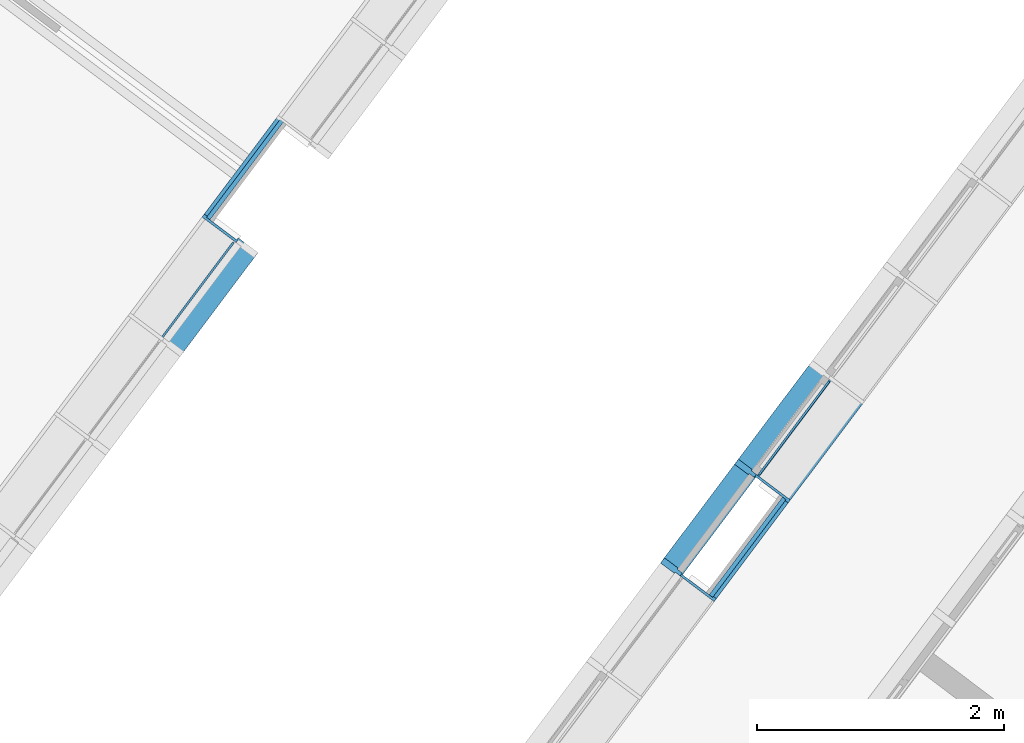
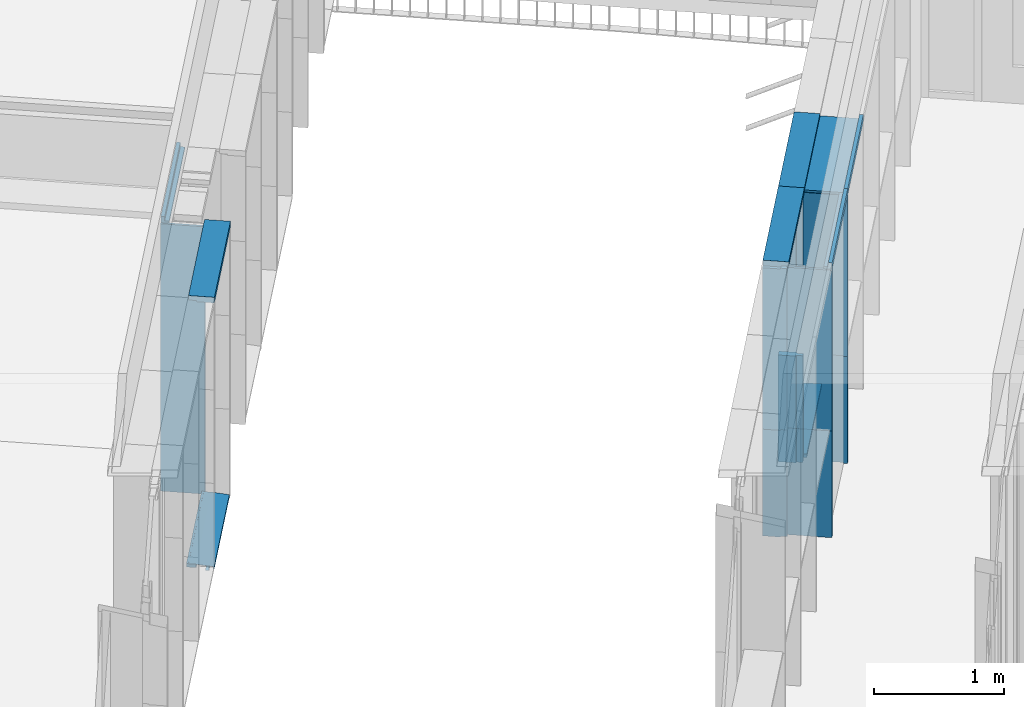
# One storey, part 23 of 243: 17 members, 4 elements without a shape of their own.
"""IFC2X3 building model written with IfcOpenShell, lengths in metres."""

from ifc_helpers import new_model, entity, si_unit, converted_unit, derived_unit, direction, frame, frame_2d, origin, place, context, subcontext, project, spatial, polyline, circle_curve, parameter, trimmed, segment, composite_curve, outline, extrude, source, transform, mapped, material, type_object, type_shapes, element, aggregate, save


model = new_model("IFC2X3")

# Units and contexts
model_context = context("Model", 3, precision=1e-05, world=origin(), true_north=direction((6.123031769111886e-17, 1.0)))
body_context = subcontext(model_context, "Body", "Model", "MODEL_VIEW")
ifc_project = project(units=[si_unit("LENGTHUNIT", "METRE"), si_unit("AREAUNIT", "SQUARE_METRE"), si_unit("VOLUMEUNIT", "CUBIC_METRE"), converted_unit("PLANEANGLEUNIT", "DEGREE", entity("IfcRatioMeasure", 0.017453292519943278), si_unit("PLANEANGLEUNIT", "RADIAN"), dimensions=[0, 0, 0, 0, 0, 0, 0]), si_unit("MASSUNIT", "GRAM", prefix="KILO"), derived_unit("MASSDENSITYUNIT", [(si_unit("MASSUNIT", "GRAM", prefix="KILO"), 1), (si_unit("LENGTHUNIT", "METRE"), -3)]), derived_unit("IONCONCENTRATIONUNIT", [(si_unit("MASSUNIT", "GRAM", prefix="KILO"), 1), (si_unit("LENGTHUNIT", "METRE"), -3)]), derived_unit("MOMENTOFINERTIAUNIT", [(si_unit("LENGTHUNIT", "METRE"), 4)]), si_unit("TIMEUNIT", "SECOND"), si_unit("FREQUENCYUNIT", "HERTZ"), si_unit("THERMODYNAMICTEMPERATUREUNIT", "DEGREE_CELSIUS"), derived_unit("THERMALTRANSMITTANCEUNIT", [(si_unit("MASSUNIT", "GRAM", prefix="KILO"), 1), (si_unit("THERMODYNAMICTEMPERATUREUNIT", "KELVIN"), -1), (si_unit("TIMEUNIT", "SECOND"), -3)]), derived_unit("THERMALCONDUCTANCEUNIT", [(si_unit("MASSUNIT", "GRAM", prefix="KILO"), 1), (si_unit("THERMODYNAMICTEMPERATUREUNIT", "KELVIN"), -1), (si_unit("TIMEUNIT", "SECOND"), -3), (si_unit("LENGTHUNIT", "METRE"), 1)]), derived_unit("VOLUMETRICFLOWRATEUNIT", [(si_unit("LENGTHUNIT", "METRE"), 3), (si_unit("TIMEUNIT", "SECOND"), -1)]), derived_unit("MASSFLOWRATEUNIT", [(si_unit("MASSUNIT", "GRAM", prefix="KILO"), 1), (si_unit("TIMEUNIT", "SECOND"), -1)]), derived_unit("ROTATIONALFREQUENCYUNIT", [(si_unit("TIMEUNIT", "SECOND"), -1)]), si_unit("ELECTRICCURRENTUNIT", "AMPERE"), si_unit("ELECTRICVOLTAGEUNIT", "VOLT"), si_unit("POWERUNIT", "WATT"), si_unit("FORCEUNIT", "NEWTON", prefix="KILO"), si_unit("ILLUMINANCEUNIT", "LUX"), si_unit("LUMINOUSFLUXUNIT", "LUMEN"), si_unit("LUMINOUSINTENSITYUNIT", "CANDELA"), derived_unit("USERDEFINED", [(si_unit("MASSUNIT", "GRAM", prefix="KILO"), -1), (si_unit("LENGTHUNIT", "METRE"), -2), (si_unit("TIMEUNIT", "SECOND"), 3), (si_unit("LUMINOUSFLUXUNIT", "LUMEN"), 1)]), derived_unit("USERDEFINED", [(si_unit("MASSUNIT", "GRAM", prefix="KILO"), 1), (si_unit("TIMEUNIT", "SECOND"), -3), (si_unit("LENGTHUNIT", "METRE"), 3), (si_unit("ELECTRICCURRENTUNIT", "AMPERE"), -2)]), derived_unit("SOUNDPOWERUNIT", [(si_unit("MASSUNIT", "GRAM", prefix="KILO"), 1), (si_unit("TIMEUNIT", "SECOND"), -3), (si_unit("LENGTHUNIT", "METRE"), 2)]), derived_unit("SOUNDPRESSUREUNIT", [(si_unit("MASSUNIT", "GRAM", prefix="KILO"), 1), (si_unit("LENGTHUNIT", "METRE"), -1), (si_unit("TIMEUNIT", "SECOND"), -2)]), derived_unit("LINEARVELOCITYUNIT", [(si_unit("LENGTHUNIT", "METRE"), 1), (si_unit("TIMEUNIT", "SECOND"), -1)]), si_unit("PRESSUREUNIT", "PASCAL"), derived_unit("USERDEFINED", [(si_unit("MASSUNIT", "GRAM", prefix="KILO"), 1), (si_unit("LENGTHUNIT", "METRE"), -2), (si_unit("TIMEUNIT", "SECOND"), -2)]), derived_unit("LINEARFORCEUNIT", [(si_unit("MASSUNIT", "GRAM", prefix="KILO"), 1), (si_unit("TIMEUNIT", "SECOND"), -2)]), derived_unit("PLANARFORCEUNIT", [(si_unit("MASSUNIT", "GRAM", prefix="KILO"), 1), (si_unit("LENGTHUNIT", "METRE"), -1), (si_unit("TIMEUNIT", "SECOND"), -2)]), derived_unit("SPECIFICHEATCAPACITYUNIT", [(si_unit("THERMODYNAMICTEMPERATUREUNIT", "KELVIN"), -1), (si_unit("LENGTHUNIT", "METRE"), 2), (si_unit("TIMEUNIT", "SECOND"), -2)]), derived_unit("HEATINGVALUEUNIT", [(si_unit("LENGTHUNIT", "METRE"), 2), (si_unit("TIMEUNIT", "SECOND"), -2)]), derived_unit("VAPORPERMEABILITYUNIT", [(si_unit("LENGTHUNIT", "METRE"), -1), (si_unit("TIMEUNIT", "SECOND"), 1)]), derived_unit("DYNAMICVISCOSITYUNIT", [(si_unit("MASSUNIT", "GRAM", prefix="KILO"), 1), (si_unit("TIMEUNIT", "SECOND"), -1), (si_unit("LENGTHUNIT", "METRE"), -1)]), derived_unit("THERMALEXPANSIONCOEFFICIENTUNIT", [(si_unit("THERMODYNAMICTEMPERATUREUNIT", "KELVIN"), -1)]), derived_unit("MODULUSOFELASTICITYUNIT", [(si_unit("MASSUNIT", "GRAM", prefix="KILO"), 1), (si_unit("LENGTHUNIT", "METRE"), -1), (si_unit("TIMEUNIT", "SECOND"), -2)]), derived_unit("ISOTHERMALMOISTURECAPACITYUNIT", [(si_unit("LENGTHUNIT", "METRE"), 3), (si_unit("MASSUNIT", "GRAM", prefix="KILO"), -1)]), derived_unit("MOISTUREDIFFUSIVITYUNIT", [(si_unit("TIMEUNIT", "SECOND"), -1), (si_unit("LENGTHUNIT", "METRE"), 2)])], contexts=[model_context])

# Site, building, storey
site_placement = place(None, frame((0.0, 0.0, 235.0), z_axis=(0.0, 0.0, 1.0), x_axis=(-0.7996477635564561, 0.6004693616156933, 0.0)))
site = spatial("IfcSite", under=ifc_project, at=site_placement, Name="Default", CompositionType="ELEMENT")
building_placement = place(site_placement, origin())
building = spatial("IfcBuilding", under=site, at=building_placement, CompositionType="ELEMENT")
storey_placement = place(building_placement, origin())
storey = spatial("IfcBuildingStorey", under=building, at=storey_placement, Name="P0- Escola", CompositionType="ELEMENT", Elevation=0.0)

# Curtain wall, members
curtain_wall_type_1 = type_object("IfcCurtainWallType", Name="Muro cortina:MC- INT- k7- Aules infantil", PredefinedType="NOTDEFINED")
curtain_wall_1_placement = place(storey_placement, origin())
curtain_wall_1 = element("IfcCurtainWall", 1, at=curtain_wall_1_placement, inside=storey, type_object=curtain_wall_type_1, Name="Muro cortina:MC- INT- k7- Aules infantil", ObjectType="Muro cortina:MC- INT- k7- Aules infantil")
ifc_material_1 = material(Name="_Fusta massisa- T1")
member_type_1 = type_object("IfcMemberType", Name="Montante rectangular:MC- Fusta- 35x3 cm- Pati aules- Remat dreta", PredefinedType="MULLION", material=ifc_material_1)
shared_shape_1 = source(origin(), body_context, "Body", "SweptSolid", [
    extrude(outline(polyline([(-0.22, -0.01666666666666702), (0.12500000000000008, -0.01666666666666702), (0.12500000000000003, 0.013333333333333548), (0.09500000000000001, 0.013333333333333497), (0.09499999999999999, 0.003333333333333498), (-0.22, 0.003333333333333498), (-0.22, -0.01666666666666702)])), frame((0.0016666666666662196, 0.03000000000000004, -2.504999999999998), z_axis=(0.0, 0.0, 1.0), x_axis=(0.0, -1.0, 0.0)), (0.0, 0.0, 1.0), 2.5049999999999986),
])
type_shapes(member_type_1, [shared_shape_1])
member_1_placement = place(curtain_wall_1_placement, frame((41.34514768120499, -29.41519175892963, 0.0), z_axis=(0.0, 0.0, -1.0), x_axis=(0.0, -1.0, 0.0)))
member_1 = element("IfcMember", 2, at=member_1_placement, type_object=member_type_1, material=ifc_material_1, Name="Montante rectangular:MC- Fusta- 35x3 cm- Pati aules- Remat dreta", ObjectType="Montante rectangular:MC- Fusta- 35x3 cm- Pati aules- Remat dreta", context=body_context, shape_type="MappedRepresentation", body=[
    mapped(shared_shape_1, transform((0.0, 0.0, 0.0), scale=1.0)),
])
member_type_2 = type_object("IfcMemberType", Name="Montante rectangular:MC- Fusta- 35x3 cm- Pati aules- Remat superior pilar", PredefinedType="MULLION", material=ifc_material_1)
shared_shape_2 = source(origin(), body_context, "Body", "SweptSolid", [
    extrude(outline(polyline([(-0.03333333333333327, -0.02666666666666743), (0.031666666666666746, -0.02666666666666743), (0.031666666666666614, 0.03333333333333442), (0.0016666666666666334, 0.033333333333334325), (0.0016666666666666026, -0.006666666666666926), (-0.03333333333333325, -0.00666666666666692), (-0.03333333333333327, -0.02666666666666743)])), frame((-0.03333333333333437, -0.06333333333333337, -1.0), z_axis=(0.0, 0.0, 1.0), x_axis=(0.0, -1.0, 0.0)), (0.0, 0.0, 1.0), 0.9999999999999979),
])
type_shapes(member_type_2, [shared_shape_2])
member_2_placement = place(curtain_wall_1_placement, frame((41.345147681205, -30.415191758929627, 2.565), z_axis=(0.0, -1.0, 0.0), x_axis=(0.0, 0.0, 1.0)))
member_2 = element("IfcMember", 3, at=member_2_placement, type_object=member_type_2, material=ifc_material_1, Name="Montante rectangular:MC- Fusta- 35x3 cm- Pati aules- Remat superior pilar", ObjectType="Montante rectangular:MC- Fusta- 35x3 cm- Pati aules- Remat superior pilar", context=body_context, shape_type="MappedRepresentation", body=[
    mapped(shared_shape_2, transform((0.0, 0.0, 0.0), scale=1.0)),
])
aggregate(curtain_wall_1, [member_1, member_2])

curtain_wall_type_2 = type_object("IfcCurtainWallType", Name="Muro cortina:MC- INT- k2", PredefinedType="NOTDEFINED")
curtain_wall_2_placement = place(storey_placement, origin())
curtain_wall_2 = element("IfcCurtainWall", 4, at=curtain_wall_2_placement, inside=storey, type_object=curtain_wall_type_2, Name="Muro cortina:MC- INT- k2", ObjectType="Muro cortina:MC- INT- k2")
member_type_3 = type_object("IfcMemberType", Name="Montante rectangular:MC- Fusta- 35x3 cm- Pati aules- Remat superior", PredefinedType="MULLION", material=ifc_material_1)
shared_shape_3 = source(origin(), body_context, "Body", "SweptSolid", [
    extrude(outline(polyline([(-0.12166666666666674, -0.02666666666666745), (0.21333333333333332, -0.02666666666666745), (0.2133333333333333, -0.006666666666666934), (-0.09166666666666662, -0.006666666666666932), (-0.09166666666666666, 0.03333333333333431), (-0.12166666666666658, 0.03333333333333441), (-0.12166666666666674, -0.02666666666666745)])), frame((-0.033333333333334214, -0.026666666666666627, -1.0), z_axis=(0.0, 0.0, 1.0), x_axis=(0.0, -1.0, 0.0)), (0.0, 0.0, 1.0), 0.9999999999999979),
])
type_shapes(member_type_3, [shared_shape_3])
member_3_placement = place(curtain_wall_2_placement, frame((36.345147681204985, -31.415191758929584, 2.565), z_axis=(0.0, -1.0, 0.0), x_axis=(0.0, 0.0, 1.0)))
member_3 = element("IfcMember", 5, at=member_3_placement, type_object=member_type_3, material=ifc_material_1, Name="Montante rectangular:MC- Fusta- 35x3 cm- Pati aules- Remat superior", ObjectType="Montante rectangular:MC- Fusta- 35x3 cm- Pati aules- Remat superior", context=body_context, shape_type="MappedRepresentation", body=[
    mapped(shared_shape_3, transform((0.0, 0.0, 0.0), scale=1.0)),
])
member_type_4 = type_object("IfcMemberType", Name="Montante rectangular:MC- Fusta- 35x3 cm- Pati aules- Remat dreta", PredefinedType="MULLION", material=ifc_material_1)
shared_shape_4 = source(origin(), body_context, "Body", "SweptSolid", [
    extrude(outline(polyline([(-0.12500000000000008, -0.01666666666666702), (0.22, -0.01666666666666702), (0.22000000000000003, 0.003333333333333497), (-0.09499999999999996, 0.003333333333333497), (-0.09499999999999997, 0.013333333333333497), (-0.12500000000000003, 0.013333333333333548), (-0.12500000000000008, -0.01666666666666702)])), frame((0.00166666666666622, -0.03000000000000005, -1.0), z_axis=(0.0, 0.0, 1.0), x_axis=(0.0, -1.0, 0.0)), (0.0, 0.0, 1.0), 1.0),
])
type_shapes(member_type_4, [shared_shape_4])
member_4_placement = place(curtain_wall_2_placement, frame((36.345147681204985, -29.415191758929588, 0.0), z_axis=(0.0, 0.0, -1.0), x_axis=(0.0, -1.0, 0.0)))
member_4 = element("IfcMember", 6, at=member_4_placement, type_object=member_type_4, material=ifc_material_1, Name="Montante rectangular:MC- Fusta- 35x3 cm- Pati aules- Remat dreta", ObjectType="Montante rectangular:MC- Fusta- 35x3 cm- Pati aules- Remat dreta", context=body_context, shape_type="MappedRepresentation", body=[
    mapped(shared_shape_4, transform((0.0, 0.0, 0.0), scale=1.0)),
])
member_type_5 = type_object("IfcMemberType", Name="Montante rectangular:MC- Fusta- 35x3 cm- Pati aules- Remat superior pilar", PredefinedType="MULLION", material=ifc_material_1)
shared_shape_5 = source(origin(), body_context, "Body", "SweptSolid", [
    extrude(outline(polyline([(-0.03166666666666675, -0.02666666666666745), (0.03333333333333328, -0.02666666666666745), (0.03333333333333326, -0.00666666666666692), (-0.0016666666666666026, -0.006666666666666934), (-0.0016666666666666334, 0.03333333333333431), (-0.03166666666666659, 0.03333333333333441), (-0.03166666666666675, -0.02666666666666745)])), frame((-0.03333333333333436, 0.06333333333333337, -1.0), z_axis=(0.0, 0.0, 1.0), x_axis=(0.0, -1.0, 0.0)), (0.0, 0.0, 1.0), 0.9999999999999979),
])
type_shapes(member_type_5, [shared_shape_5])
member_5_placement = place(curtain_wall_2_placement, frame((36.345147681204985, -30.415191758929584, 2.565), z_axis=(0.0, -1.0, 0.0), x_axis=(0.0, 0.0, 1.0)))
member_5 = element("IfcMember", 7, at=member_5_placement, type_object=member_type_5, material=ifc_material_1, Name="Montante rectangular:MC- Fusta- 35x3 cm- Pati aules- Remat superior pilar", ObjectType="Montante rectangular:MC- Fusta- 35x3 cm- Pati aules- Remat superior pilar", context=body_context, shape_type="MappedRepresentation", body=[
    mapped(shared_shape_5, transform((0.0, 0.0, 0.0), scale=1.0)),
])
member_type_6 = type_object("IfcMemberType", Name="Montante rectangular:MC- Fusta- 35x3 cm- Pati aules- Remat esquerra", PredefinedType="MULLION", material=ifc_material_1)
shared_shape_6 = source(origin(), body_context, "Body", "SweptSolid", [
    extrude(outline(polyline([(-0.12500000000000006, -0.013333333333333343), (-0.09500000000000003, -0.013333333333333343), (-0.09499999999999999, -0.0033333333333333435), (0.22000000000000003, -0.003333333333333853), (0.22000000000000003, 0.016666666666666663), (-0.12500000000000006, 0.01666666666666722), (-0.12500000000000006, -0.013333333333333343)])), frame((-0.00166666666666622, -0.03000000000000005, -1.0), z_axis=(0.0, 0.0, 1.0), x_axis=(0.0, -1.0, 0.0)), (0.0, 0.0, 1.0), 1.0),
])
type_shapes(member_type_6, [shared_shape_6])
member_6_placement = place(curtain_wall_2_placement, frame((36.345147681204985, -30.415191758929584, 0.0), z_axis=(0.0, 0.0, -1.0), x_axis=(0.0, -1.0, 0.0)))
member_6 = element("IfcMember", 8, at=member_6_placement, type_object=member_type_6, material=ifc_material_1, Name="Montante rectangular:MC- Fusta- 35x3 cm- Pati aules- Remat esquerra", ObjectType="Montante rectangular:MC- Fusta- 35x3 cm- Pati aules- Remat esquerra", context=body_context, shape_type="MappedRepresentation", body=[
    mapped(shared_shape_6, transform((0.0, 0.0, 0.0), scale=1.0)),
])
member_type_7 = type_object("IfcMemberType", Name="Montante rectangular:MC- Fusta- 35x3 cm- Pati aules- Remat dreta", PredefinedType="MULLION", material=ifc_material_1)
shared_shape_7 = source(origin(), body_context, "Body", "SweptSolid", [
    extrude(outline(polyline([(-0.12500000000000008, -0.01666666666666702), (0.22, -0.01666666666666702), (0.22000000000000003, 0.003333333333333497), (-0.09499999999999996, 0.003333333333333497), (-0.09499999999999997, 0.013333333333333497), (-0.12500000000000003, 0.013333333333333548), (-0.12500000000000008, -0.01666666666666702)])), frame((0.00166666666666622, -0.03000000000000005, -1.504999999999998), z_axis=(0.0, 0.0, 1.0), x_axis=(0.0, -1.0, 0.0)), (0.0, 0.0, 1.0), 1.504999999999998),
])
type_shapes(member_type_7, [shared_shape_7])
member_7_placement = place(curtain_wall_2_placement, frame((36.345147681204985, -29.415191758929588, 1.0), z_axis=(0.0, 0.0, -1.0), x_axis=(0.0, -1.0, 0.0)))
member_7 = element("IfcMember", 9, at=member_7_placement, type_object=member_type_7, material=ifc_material_1, Name="Montante rectangular:MC- Fusta- 35x3 cm- Pati aules- Remat dreta", ObjectType="Montante rectangular:MC- Fusta- 35x3 cm- Pati aules- Remat dreta", context=body_context, shape_type="MappedRepresentation", body=[
    mapped(shared_shape_7, transform((0.0, 0.0, 0.0), scale=1.0)),
])
member_type_8 = type_object("IfcMemberType", Name="Montante rectangular:MC- Fusta- 35x3 cm- Pati aules- Remat esquerra", PredefinedType="MULLION", material=ifc_material_1)
shared_shape_8 = source(origin(), body_context, "Body", "SweptSolid", [
    extrude(outline(polyline([(-0.12500000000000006, -0.013333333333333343), (-0.09500000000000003, -0.013333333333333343), (-0.09499999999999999, -0.0033333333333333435), (0.22000000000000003, -0.003333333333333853), (0.22000000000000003, 0.016666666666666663), (-0.12500000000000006, 0.01666666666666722), (-0.12500000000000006, -0.013333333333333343)])), frame((-0.00166666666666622, -0.03000000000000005, -1.504999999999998), z_axis=(0.0, 0.0, 1.0), x_axis=(0.0, -1.0, 0.0)), (0.0, 0.0, 1.0), 1.504999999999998),
])
type_shapes(member_type_8, [shared_shape_8])
member_8_placement = place(curtain_wall_2_placement, frame((36.345147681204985, -30.415191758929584, 1.0), z_axis=(0.0, 0.0, -1.0), x_axis=(0.0, -1.0, 0.0)))
member_8 = element("IfcMember", 10, at=member_8_placement, type_object=member_type_8, material=ifc_material_1, Name="Montante rectangular:MC- Fusta- 35x3 cm- Pati aules- Remat esquerra", ObjectType="Montante rectangular:MC- Fusta- 35x3 cm- Pati aules- Remat esquerra", context=body_context, shape_type="MappedRepresentation", body=[
    mapped(shared_shape_8, transform((0.0, 0.0, 0.0), scale=1.0)),
])
aggregate(curtain_wall_2, [member_4, member_5, member_6, member_3, member_7, member_8])

curtain_wall_type_3 = type_object("IfcCurtainWallType", Name="Muro cortina:MC- EXT- MC2", PredefinedType="NOTDEFINED")
curtain_wall_3_placement = place(storey_placement, origin())
curtain_wall_3 = element("IfcCurtainWall", 11, at=curtain_wall_3_placement, inside=storey, type_object=curtain_wall_type_3, Name="Muro cortina:MC- EXT- MC2", ObjectType="Muro cortina:MC- EXT- MC2")
ifc_material_2 = material(Name="_Alumini- T1- Perfil")
member_type_9 = type_object("IfcMemberType", Name="Montante rectangular:MC- Alu- 140x52,5 cm- Fa patis- inferior", PredefinedType="MULLION", material=ifc_material_2)
shared_shape_9 = source(origin(), body_context, "Body", "SweptSolid", [
    extrude(outline(composite_curve([segment(polyline([(0.1278672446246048, -0.02586710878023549), (0.14416724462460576, -0.025867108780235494)]), True, "CONTINUOUS"), segment(polyline([(0.14416724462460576, -0.025867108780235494), (0.1441672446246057, 0.009132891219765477)]), True, "CONTINUOUS"), segment(polyline([(0.1441672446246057, 0.009132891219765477), (0.06786724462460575, 0.009132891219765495)]), True, "CONTINUOUS"), segment(polyline([(0.06786724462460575, 0.009132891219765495), (0.06786724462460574, -0.021159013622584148)]), True, "CONTINUOUS"), segment(polyline([(0.06786724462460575, -0.02115901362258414), (-0.030132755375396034, -0.012332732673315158)]), True, "CONTINUOUS"), segment(polyline([(-0.03013275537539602, -0.012332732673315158), (-0.030132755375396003, 0.027132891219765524)]), True, "CONTINUOUS"), segment(polyline([(-0.030132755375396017, 0.02713289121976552), (-0.0021327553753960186, 0.02713289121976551)]), True, "CONTINUOUS"), segment(polyline([(-0.0021327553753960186, 0.027132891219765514), (-0.0021327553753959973, 0.029132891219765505)]), True, "CONTINUOUS"), segment(polyline([(-0.0021327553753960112, 0.029132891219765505), (-0.032132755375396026, 0.029132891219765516)]), True, "CONTINUOUS"), segment(polyline([(-0.032132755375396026, 0.029132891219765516), (-0.03213275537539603, -0.012152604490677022)]), True, "CONTINUOUS"), segment(polyline([(-0.03213275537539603, -0.012152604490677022), (-0.0701327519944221, -0.008730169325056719)]), True, "CONTINUOUS"), segment(polyline([(-0.0701327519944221, -0.008730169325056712), (-0.0701327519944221, 0.005766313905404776)]), True, "CONTINUOUS"), segment(trimmed(circle_curve(frame_2d((-0.0696327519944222, 0.0057663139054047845), x_axis=(-1.0, 0.0)), 0.0004999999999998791), [parameter(269.999999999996)], [parameter(0.0)], True, "PARAMETER"), False, "CONTINUOUS"), segment(polyline([(-0.0696327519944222, 0.00626631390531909), (-0.06213275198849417, 0.006266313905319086)]), True, "CONTINUOUS"), segment(polyline([(-0.06213275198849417, 0.006266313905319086), (-0.06213275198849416, 0.008266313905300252)]), True, "CONTINUOUS"), segment(polyline([(-0.06213275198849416, 0.008266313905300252), (-0.07013275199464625, 0.008266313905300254)]), True, "CONTINUOUS"), segment(trimmed(circle_curve(frame_2d((-0.07013275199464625, 0.006266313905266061), x_axis=(0.0, 1.0)), 0.0020000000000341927), [parameter(0.0)], [parameter(90.00000002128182)], True, "PARAMETER"), True, "CONTINUOUS"), segment(polyline([(-0.07213275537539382, 0.006266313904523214), (-0.07213275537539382, -0.008730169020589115)]), True, "CONTINUOUS"), segment(trimmed(circle_curve(frame_2d((-0.07013275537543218, -0.008730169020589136), x_axis=(-1.0, 0.0)), 0.0019999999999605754), [parameter(0.0)], [parameter(84.85359280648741)], True, "PARAMETER"), True, "CONTINUOUS"), segment(polyline([(-0.07031215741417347, -0.01072210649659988), (0.06786724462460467, -0.023167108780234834)]), True, "CONTINUOUS"), segment(polyline([(0.06786724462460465, -0.023167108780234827), (0.12786724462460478, -0.023167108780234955)]), True, "CONTINUOUS"), segment(polyline([(0.12786724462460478, -0.023167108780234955), (0.1278672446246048, -0.02586710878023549)]), True, "CONTINUOUS")], self_intersect=False)), frame((-0.029132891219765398, 0.06786724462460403, -0.9737499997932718), z_axis=(0.0, 0.0, 1.0), x_axis=(0.0, -1.0, 0.0)), (0.0, 0.0, 1.0), 0.9737499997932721),
])
type_shapes(member_type_9, [shared_shape_9])
member_9_placement = place(curtain_wall_3_placement, frame((41.04514768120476, -28.415191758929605, -0.02), z_axis=(0.0, 1.0, 0.0), x_axis=(0.0, 0.0, -1.0)))
member_9 = element("IfcMember", 12, at=member_9_placement, type_object=member_type_9, material=ifc_material_2, Name="Montante rectangular:MC- Alu- 140x52,5 cm- Fa patis- inferior", ObjectType="Montante rectangular:MC- Alu- 140x52,5 cm- Fa patis- inferior", context=body_context, shape_type="MappedRepresentation", body=[
    mapped(shared_shape_9, transform((0.0, 0.0, 0.0), scale=1.0)),
])
member_type_10 = type_object("IfcMemberType", Name="Montante rectangular:MC- Alu- 140x52,5 cm- Fa patis- Superior", PredefinedType="MULLION", material=ifc_material_2)
shared_shape_10 = source(origin(), body_context, "Body", "SweptSolid", [
    extrude(outline(polyline([(-0.11366666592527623, -0.021249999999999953), (0.026333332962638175, -0.021249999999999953), (0.026333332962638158, -0.010000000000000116), (0.08733333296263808, -0.010000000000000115), (0.08733333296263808, 0.03125000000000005), (-0.11366666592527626, 0.031250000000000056), (-0.11366666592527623, -0.021249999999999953)])), frame((-0.031250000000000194, 0.0273333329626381, -1.0262500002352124), z_axis=(0.0, 0.0, 1.0), x_axis=(0.0, -1.0, 0.0)), (0.0, 0.0, 1.0), 1.0262500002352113),
])
type_shapes(member_type_10, [shared_shape_10])
member_10_placement = place(curtain_wall_3_placement, frame((41.04514768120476, -29.441441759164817, 2.545), z_axis=(0.0, -1.0, 0.0), x_axis=(0.0, 0.0, 1.0)))
member_10 = element("IfcMember", 13, at=member_10_placement, type_object=member_type_10, material=ifc_material_2, Name="Montante rectangular:MC- Alu- 140x52,5 cm- Fa patis- Superior", ObjectType="Montante rectangular:MC- Alu- 140x52,5 cm- Fa patis- Superior", context=body_context, shape_type="MappedRepresentation", body=[
    mapped(shared_shape_10, transform((0.0, 0.0, 0.0), scale=1.0)),
])
aggregate(curtain_wall_3, [member_9, member_10])

curtain_wall_type_4 = type_object("IfcCurtainWallType", Name="Muro cortina:MC- EXT- MC5", PredefinedType="NOTDEFINED")
curtain_wall_4_placement = place(storey_placement, origin())
curtain_wall_4 = element("IfcCurtainWall", 14, at=curtain_wall_4_placement, inside=storey, type_object=curtain_wall_type_4, Name="Muro cortina:MC- EXT- MC5", ObjectType="Muro cortina:MC- EXT- MC5")
member_type_11 = type_object("IfcMemberType", Name="Montante rectangular:MC- Alu- 140x52,5 cm- Fa patis- inferior", PredefinedType="MULLION", material=ifc_material_2)
shared_shape_11 = source(origin(), body_context, "Body", "SweptSolid", [
    extrude(outline(composite_curve([segment(polyline([(-0.144167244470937, -0.02586710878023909), (-0.12786724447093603, -0.025867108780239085)]), True, "CONTINUOUS"), segment(polyline([(-0.12786724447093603, -0.025867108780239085), (-0.12786724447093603, -0.02316710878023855)]), True, "CONTINUOUS"), segment(polyline([(-0.12786724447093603, -0.02316710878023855), (-0.0678672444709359, -0.02316710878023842)]), True, "CONTINUOUS"), segment(polyline([(-0.0678672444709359, -0.02316710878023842), (0.07031215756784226, -0.010722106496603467)]), True, "CONTINUOUS"), segment(trimmed(circle_curve(frame_2d((0.07013275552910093, -0.008730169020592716), x_axis=(0.0897010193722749, -0.9959687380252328)), 0.0019999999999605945), [parameter(0.0)], [parameter(84.8535928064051)], True, "PARAMETER"), True, "CONTINUOUS"), segment(polyline([(0.07213275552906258, -0.00873016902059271), (0.07213275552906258, 0.0062663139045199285)]), True, "CONTINUOUS"), segment(trimmed(circle_curve(frame_2d((0.070132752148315, 0.006266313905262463), x_axis=(1.0, 0.0)), 0.002000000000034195), [parameter(0.0)], [parameter(90.00000002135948)], True, "PARAMETER"), True, "CONTINUOUS"), segment(polyline([(0.070132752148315, 0.00826631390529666), (0.06213275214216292, 0.008266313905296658)]), True, "CONTINUOUS"), segment(polyline([(0.06213275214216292, 0.008266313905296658), (0.06213275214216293, 0.006266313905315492)]), True, "CONTINUOUS"), segment(polyline([(0.06213275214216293, 0.006266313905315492), (0.06963275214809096, 0.006266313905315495)]), True, "CONTINUOUS"), segment(trimmed(circle_curve(frame_2d((0.06963275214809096, 0.005766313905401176), x_axis=(0.0, 1.0)), 0.0004999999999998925), [parameter(269.99999999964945)], [parameter(0.0)], True, "PARAMETER"), False, "CONTINUOUS"), segment(polyline([(0.07013275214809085, 0.0057663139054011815), (0.07013275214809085, -0.008730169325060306)]), True, "CONTINUOUS"), segment(polyline([(0.07013275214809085, -0.008730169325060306), (0.03213275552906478, -0.012152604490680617)]), True, "CONTINUOUS"), segment(polyline([(0.03213275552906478, -0.012152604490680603), (0.03213275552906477, 0.02913289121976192)]), True, "CONTINUOUS"), segment(polyline([(0.03213275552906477, 0.02913289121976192), (0.0021327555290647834, 0.02913289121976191)]), True, "CONTINUOUS"), segment(polyline([(0.0021327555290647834, 0.02913289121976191), (0.0021327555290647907, 0.027132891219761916)]), True, "CONTINUOUS"), segment(polyline([(0.0021327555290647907, 0.027132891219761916), (0.03013275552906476, 0.027132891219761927)]), True, "CONTINUOUS"), segment(polyline([(0.03013275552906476, 0.02713289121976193), (0.03013275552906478, -0.012332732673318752)]), True, "CONTINUOUS"), segment(polyline([(0.03013275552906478, -0.012332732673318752), (-0.06786724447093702, -0.021159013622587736)]), True, "CONTINUOUS"), segment(polyline([(-0.06786724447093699, -0.021159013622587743), (-0.067867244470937, 0.0091328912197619)]), True, "CONTINUOUS"), segment(polyline([(-0.06786724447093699, 0.0091328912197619), (-0.14416724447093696, 0.009132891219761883)]), True, "CONTINUOUS"), segment(polyline([(-0.14416724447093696, 0.009132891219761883), (-0.144167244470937, -0.02586710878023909)]), True, "CONTINUOUS")], self_intersect=False)), frame((-0.029132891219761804, -0.06786724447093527, -0.9474999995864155), z_axis=(0.0, 0.0, 1.0), x_axis=(0.0, -1.0, 0.0)), (0.0, 0.0, 1.0), 0.9474999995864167),
])
type_shapes(member_type_11, [shared_shape_11])
member_11_placement = place(curtain_wall_4_placement, frame((36.645147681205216, -30.441441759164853, -0.02), z_axis=(0.0, 1.0, 0.0), x_axis=(0.0, 0.0, -1.0)))
member_11 = element("IfcMember", 15, at=member_11_placement, type_object=member_type_11, material=ifc_material_2, Name="Montante rectangular:MC- Alu- 140x52,5 cm- Fa patis- inferior", ObjectType="Montante rectangular:MC- Alu- 140x52,5 cm- Fa patis- inferior", context=body_context, shape_type="MappedRepresentation", body=[
    mapped(shared_shape_11, transform((0.0, 0.0, 0.0), scale=1.0)),
])
member_type_12 = type_object("IfcMemberType", Name="Montante rectangular:MC- Alu- 140x52,5 cm- Fa patis- Superior", PredefinedType="MULLION", material=ifc_material_2)
shared_shape_12 = source(origin(), body_context, "Body", "SweptSolid", [
    extrude(outline(polyline([(-0.026333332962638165, -0.021249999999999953), (0.11366666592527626, -0.021249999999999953), (0.11366666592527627, 0.031250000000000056), (-0.08733333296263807, 0.03125000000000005), (-0.0873333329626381, -0.010000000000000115), (-0.026333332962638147, -0.010000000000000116), (-0.026333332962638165, -0.021249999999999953)])), frame((-0.031250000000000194, -0.02733333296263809, -1.0), z_axis=(0.0, 0.0, 1.0), x_axis=(0.0, -1.0, 0.0)), (0.0, 0.0, 1.0), 1.0000000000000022),
])
type_shapes(member_type_12, [shared_shape_12])
member_12_placement = place(curtain_wall_4_placement, frame((36.645147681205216, -31.41519175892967, 2.545), z_axis=(0.0, -1.0, 0.0), x_axis=(0.0, 0.0, 1.0)))
member_12 = element("IfcMember", 16, at=member_12_placement, type_object=member_type_12, material=ifc_material_2, Name="Montante rectangular:MC- Alu- 140x52,5 cm- Fa patis- Superior", ObjectType="Montante rectangular:MC- Alu- 140x52,5 cm- Fa patis- Superior", context=body_context, shape_type="MappedRepresentation", body=[
    mapped(shared_shape_12, transform((0.0, 0.0, 0.0), scale=1.0)),
])
member_13_placement = place(curtain_wall_4_placement, frame((36.645147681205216, -30.415191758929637, 2.545), z_axis=(0.0, -1.0, 0.0), x_axis=(0.0, 0.0, 1.0)))
member_13 = element("IfcMember", 17, at=member_13_placement, type_object=member_type_12, material=ifc_material_2, Name="Montante rectangular:MC- Alu- 140x52,5 cm- Fa patis- Superior", ObjectType="Montante rectangular:MC- Alu- 140x52,5 cm- Fa patis- Superior", context=body_context, shape_type="MappedRepresentation", body=[
    mapped(shared_shape_12, transform((0.0, 0.0, 0.0), scale=1.0)),
])
member_type_13 = type_object("IfcMemberType", Name="Montante rectangular:MC- Alu- 140x52,5 cm- Fa patis- Centre", PredefinedType="MULLION", material=ifc_material_2)
shared_shape_13 = source(origin(), body_context, "Body", "SweptSolid", [
    extrude(outline(polyline([(-0.021999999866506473, -0.026250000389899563), (0.11699999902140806, -0.026250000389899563), (0.11699999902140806, 0.026250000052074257), (-0.022000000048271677, 0.026250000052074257), (-0.022000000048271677, 0.015000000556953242), (-0.07299999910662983, 0.015000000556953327), (-0.07299999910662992, -0.01500000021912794), (-0.021999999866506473, -0.01500000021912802), (-0.021999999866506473, -0.026250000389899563)])), frame((0.0, -0.022999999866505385, -1.0), z_axis=(0.0, 0.0, 1.0), x_axis=(0.0, -1.0, 0.0)), (0.0, 0.0, 1.0), 1.0),
])
type_shapes(member_type_13, [shared_shape_13])
member_14_placement = place(curtain_wall_4_placement, frame((36.645147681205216, -29.415191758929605, -0.02), z_axis=(0.0, 0.0, -1.0), x_axis=(0.0, -1.0, 0.0)))
member_14 = element("IfcMember", 18, at=member_14_placement, type_object=member_type_13, material=ifc_material_2, Name="Montante rectangular:MC- Alu- 140x52,5 cm- Fa patis- Centre", ObjectType="Montante rectangular:MC- Alu- 140x52,5 cm- Fa patis- Centre", context=body_context, shape_type="MappedRepresentation", body=[
    mapped(shared_shape_13, transform((0.0, 0.0, 0.0), scale=1.0)),
])
member_15_placement = place(curtain_wall_4_placement, frame((36.645147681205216, -30.415191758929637, -0.02), z_axis=(0.0, 0.0, -1.0), x_axis=(0.0, -1.0, 0.0)))
member_15 = element("IfcMember", 19, at=member_15_placement, type_object=member_type_13, material=ifc_material_2, Name="Montante rectangular:MC- Alu- 140x52,5 cm- Fa patis- Centre", ObjectType="Montante rectangular:MC- Alu- 140x52,5 cm- Fa patis- Centre", context=body_context, shape_type="MappedRepresentation", body=[
    mapped(shared_shape_13, transform((0.0, 0.0, 0.0), scale=1.0)),
])
member_type_14 = type_object("IfcMemberType", Name="Montante rectangular:MC- Alu- 140x52,5 cm- Fa patis- Centre", PredefinedType="MULLION", material=ifc_material_2)
shared_shape_14 = source(origin(), body_context, "Body", "SweptSolid", [
    extrude(outline(polyline([(-0.021999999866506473, -0.026250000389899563), (0.11699999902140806, -0.026250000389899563), (0.11699999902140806, 0.026250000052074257), (-0.022000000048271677, 0.026250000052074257), (-0.022000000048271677, 0.015000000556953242), (-0.07299999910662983, 0.015000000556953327), (-0.07299999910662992, -0.01500000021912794), (-0.021999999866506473, -0.01500000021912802), (-0.021999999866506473, -0.026250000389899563)])), frame((0.0, -0.022999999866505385, -1.5124999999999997), z_axis=(0.0, 0.0, 1.0), x_axis=(0.0, -1.0, 0.0)), (0.0, 0.0, 1.0), 1.5124999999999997),
])
type_shapes(member_type_14, [shared_shape_14])
member_16_placement = place(curtain_wall_4_placement, frame((36.645147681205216, -29.415191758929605, 0.98), z_axis=(0.0, 0.0, -1.0), x_axis=(0.0, -1.0, 0.0)))
member_16 = element("IfcMember", 20, at=member_16_placement, type_object=member_type_14, material=ifc_material_2, Name="Montante rectangular:MC- Alu- 140x52,5 cm- Fa patis- Centre", ObjectType="Montante rectangular:MC- Alu- 140x52,5 cm- Fa patis- Centre", context=body_context, shape_type="MappedRepresentation", body=[
    mapped(shared_shape_14, transform((0.0, 0.0, 0.0), scale=1.0)),
])
member_17_placement = place(curtain_wall_4_placement, frame((36.645147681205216, -30.415191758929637, 0.98), z_axis=(0.0, 0.0, -1.0), x_axis=(0.0, -1.0, 0.0)))
member_17 = element("IfcMember", 21, at=member_17_placement, type_object=member_type_14, material=ifc_material_2, Name="Montante rectangular:MC- Alu- 140x52,5 cm- Fa patis- Centre", ObjectType="Montante rectangular:MC- Alu- 140x52,5 cm- Fa patis- Centre", context=body_context, shape_type="MappedRepresentation", body=[
    mapped(shared_shape_14, transform((0.0, 0.0, 0.0), scale=1.0)),
])
aggregate(curtain_wall_4, [member_14, member_12, member_13, member_11, member_15, member_16, member_17])

save(model, "model.ifc")
